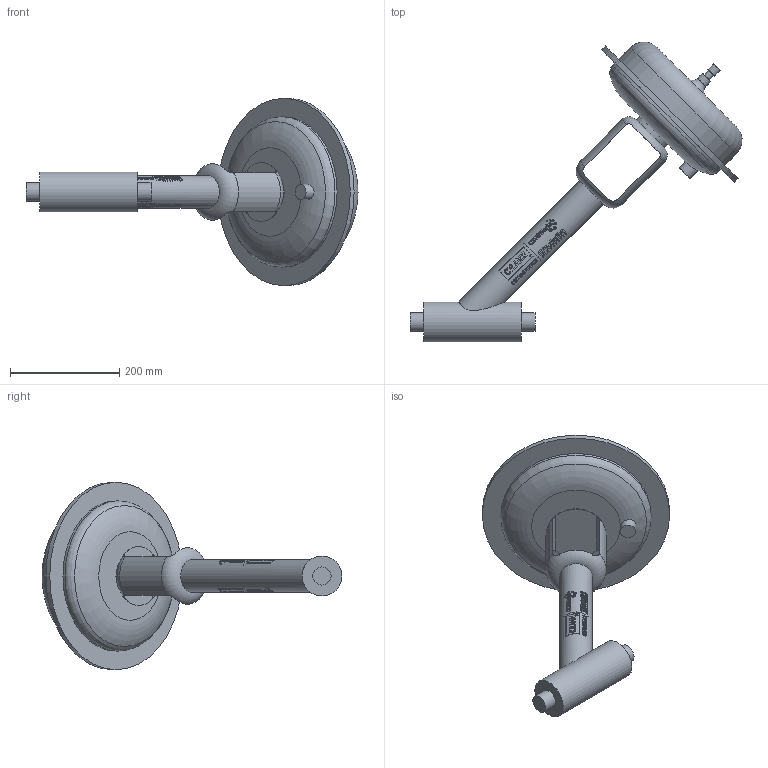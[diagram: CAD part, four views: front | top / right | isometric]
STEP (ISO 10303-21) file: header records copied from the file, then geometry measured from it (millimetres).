
FILE_DESCRIPTION (( 'STEP AP203' ), '1' );
FILE_NAME ('1in Y-Pattern Pneumatic TF Valve.step', '2025-12-17T20:08:34', ( '' ), ( '' ), 'SwSTEP 2.0', 'SolidWorks 2023', '' );
FILE_SCHEMA (( 'CONFIG_CONTROL_DESIGN' ));
Products named in the file (1): 1in Y-Pattern Pneumatic TF Valve
Bounding box: 607.07 x 548.33 x 342.9 mm (x, y, z)
Volume: 8377175.1 mm3; surface area: 439043.4 mm2
Topology: 1 solids, 1 shells, 1181 faces, 3007 edges, 2000 vertices
Faces by surface type: plane 752, cylinder 316, bspline 106, torus 6, cone 1
Full cylindrical faces by diameter (mm): 0.896 x2, 0.982 x2, 1.067 x2, 1.223 x2, 1.381 x2, 1.78 x2, 1.842 x2, 2.045 x2, 2.179 x2, 2.284 x2, 2.405 x2, 2.744 x2, 3.706 x2, 4.578 x2, 5.539 x2, 6.45 x2, 12.544 x1, 17.502 x1, 21.561 x1, 27.94 x1, 33.401 x2, 60.325 x1, 73.025 x1, 73.272 x1, 274.58 x2, 342.9 x1
Entity records: 49299 total; most frequent: CARTESIAN_POINT 23384, ORIENTED_EDGE 5874, DIRECTION 4430, EDGE_CURVE 2937, VERTEX_POINT 1997, LINE 1544, VECTOR 1544, AXIS2_PLACEMENT_3D 1443
